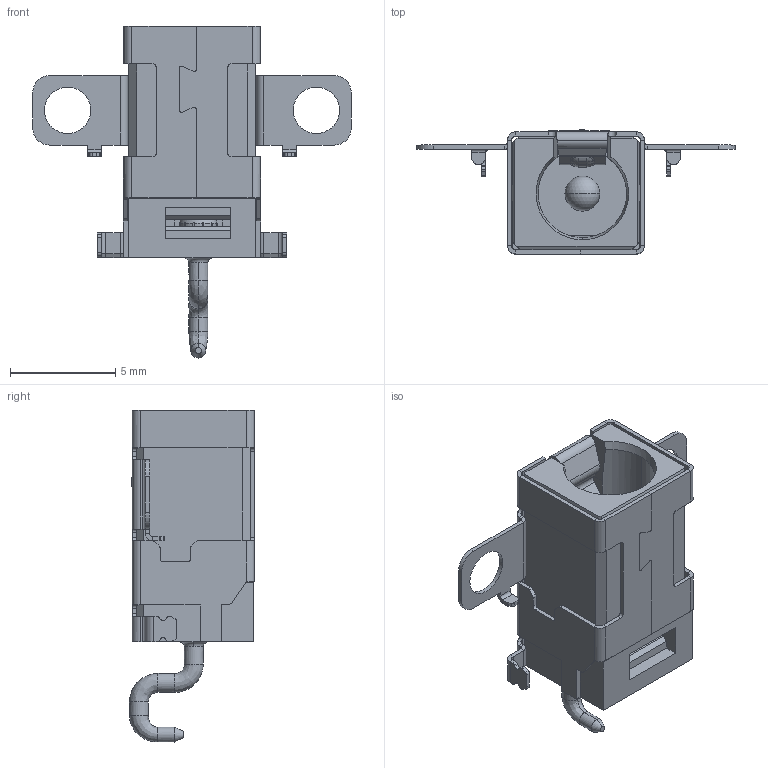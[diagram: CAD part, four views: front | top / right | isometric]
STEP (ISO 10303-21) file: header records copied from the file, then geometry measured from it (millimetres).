
FILE_DESCRIPTION (( 'STEP AP203' ), '1' );
FILE_NAME ('DC400170-1088-20000H.stp', '2023-07-04T02:22:45', ( '' ), ( '' ), 'SwSTEP 2.0', 'SolidWorks 2023', '' );
FILE_SCHEMA (( 'CONFIG_CONTROL_DESIGN' ));
Length unit declared in the file: millimetre
Products named in the file (1): DC400170-1088-20000H
Bounding box: 15.1 x 5.93 x 15.75 mm (x, y, z)
Volume: 271.6 mm3; surface area: 863.2 mm2
Topology: 1 solids, 2 shells, 895 faces, 2358 edges, 1477 vertices
Faces by surface type: plane 531, cylinder 228, bspline 96, cone 16, torus 14, sphere 10
Entity records: 33026 total; most frequent: CARTESIAN_POINT 11400, ORIENTED_EDGE 4708, DIRECTION 4121, EDGE_CURVE 2354, LINE 1637, VECTOR 1637, VERTEX_POINT 1475, AXIS2_PLACEMENT_3D 1242
